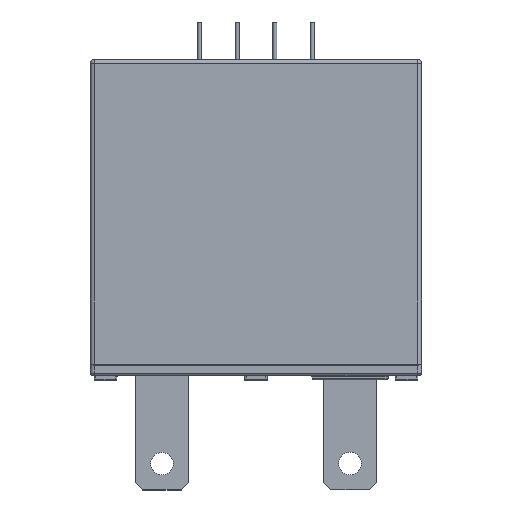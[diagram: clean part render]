
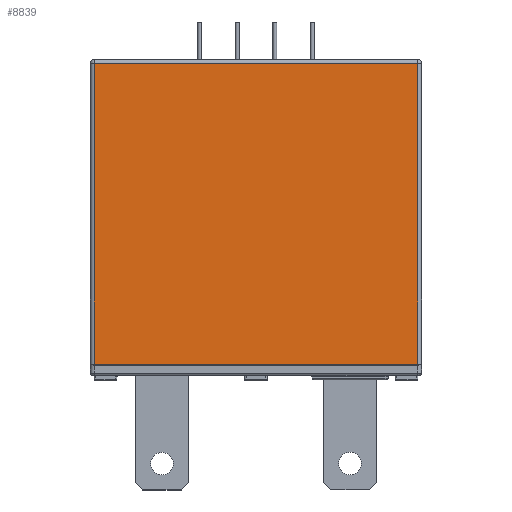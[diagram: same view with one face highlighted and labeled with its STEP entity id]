
A CAD part, top view. The second image highlights one B-rep face of the part: STEP entity #8839.
In plain terms, the highlighted planar face has unit normal (0, 0, 1).
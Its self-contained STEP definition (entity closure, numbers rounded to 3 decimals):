
#2470=DIRECTION('',(1.,0.,0.));
#2471=VECTOR('',#2470,43.);
#2472=CARTESIAN_POINT('',(-21.5,1.5,7.3));
#2473=LINE('',#2472,#2471);
#4004=DIRECTION('',(0.,-1.,0.));
#4005=VECTOR('',#4004,40.);
#4006=CARTESIAN_POINT('',(-21.5,41.5,7.3));
#4007=LINE('',#4006,#4005);
#4011=DIRECTION('',(1.,0.,0.));
#4012=VECTOR('',#4011,43.);
#4013=CARTESIAN_POINT('',(-21.5,41.5,7.3));
#4014=LINE('',#4013,#4012);
#4018=DIRECTION('',(0.,-1.,0.));
#4019=VECTOR('',#4018,40.);
#4020=CARTESIAN_POINT('',(21.5,41.5,7.3));
#4021=LINE('',#4020,#4019);
#5111=CARTESIAN_POINT('',(-21.5,1.5,7.3));
#5113=VERTEX_POINT('',#5111);
#5117=CARTESIAN_POINT('',(-21.5,41.5,7.3));
#5118=VERTEX_POINT('',#5117);
#5120=CARTESIAN_POINT('',(21.5,1.5,7.3));
#5122=VERTEX_POINT('',#5120);
#5123=CARTESIAN_POINT('',(21.5,41.5,7.3));
#5124=VERTEX_POINT('',#5123);
#8827=CARTESIAN_POINT('',(-22.,1.5,7.3));
#8828=DIRECTION('',(0.,0.,1.));
#8829=DIRECTION('',(1.,0.,0.));
#8830=AXIS2_PLACEMENT_3D('',#8827,#8828,#8829);
#8831=PLANE('',#8830);
#8832=ORIENTED_EDGE('',*,*,#8738,.F.);
#8834=ORIENTED_EDGE('',*,*,#8833,.T.);
#8835=ORIENTED_EDGE('',*,*,#8819,.T.);
#8836=ORIENTED_EDGE('',*,*,#7273,.F.);
#8837=EDGE_LOOP('',(#8832,#8834,#8835,#8836));
#8838=FACE_OUTER_BOUND('',#8837,.F.);
#8839=ADVANCED_FACE('',(#8838),#8831,.T.);
#7273=EDGE_CURVE('',#5113,#5122,#2473,.T.);
#8738=EDGE_CURVE('',#5118,#5113,#4007,.T.);
#8819=EDGE_CURVE('',#5124,#5122,#4021,.T.);
#8833=EDGE_CURVE('',#5118,#5124,#4014,.T.);
